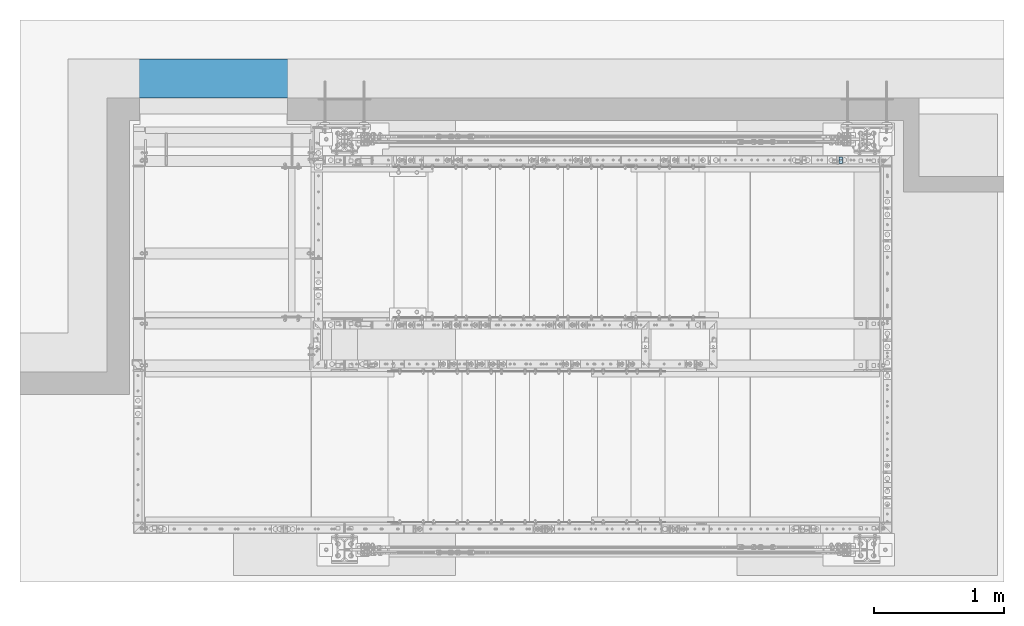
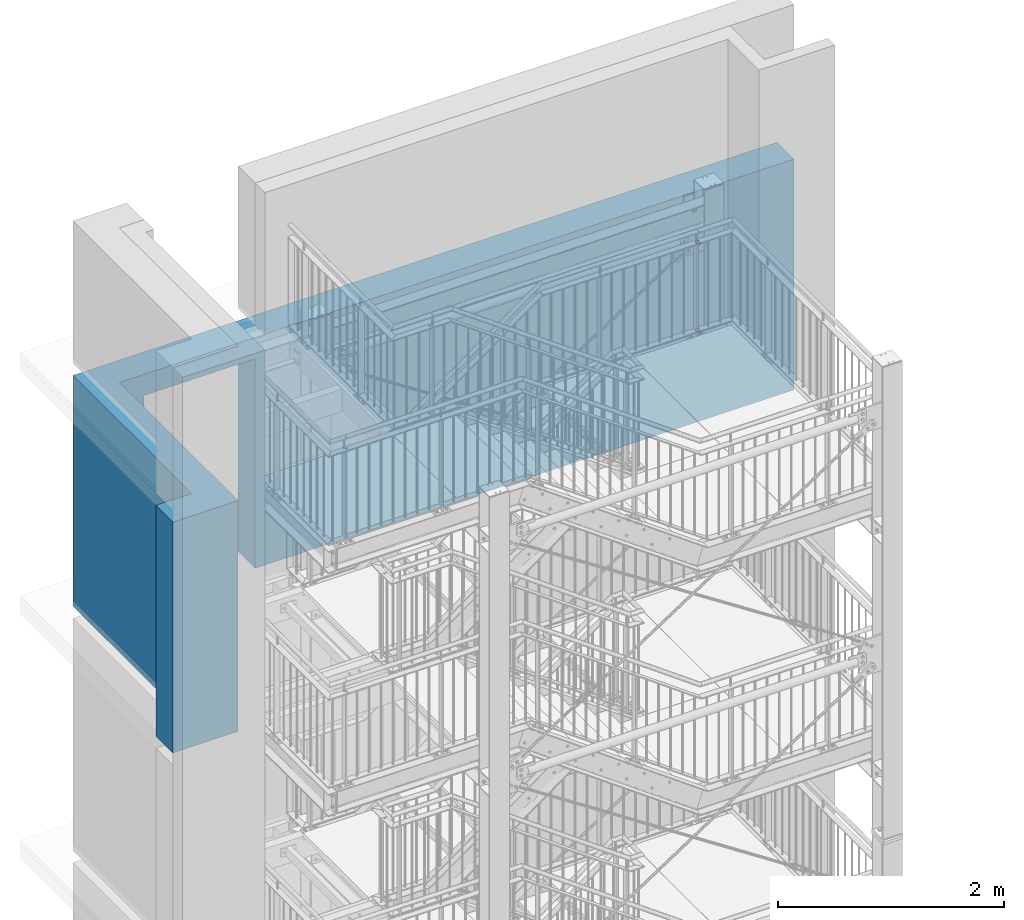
# One storey, part 235 of 831: 2 plates, 1 wall, 5 openings.
"""IFC2X3 building model written with IfcOpenShell, lengths in millimetres."""

from ifc_helpers import new_model, entity, si_unit, converted_unit, point, frame, frame_2d, origin, origin_with_axes, place, context, project, spatial, polyline, circle_curve, line_curve, trimmed, segment, composite_curve, outline, extrude, material, layer, layer_set, element, save


model = new_model("IFC2X3")

# Units and contexts
model_context = context("Model", 3, precision=1e-09, world=origin_with_axes())
ifc_project = project(units=[si_unit("LENGTHUNIT", "METRE", prefix="MILLI"), si_unit("AREAUNIT", "SQUARE_METRE"), si_unit("VOLUMEUNIT", "CUBIC_METRE"), converted_unit("PLANEANGLEUNIT", "DEGREE", entity("IfcPlaneAngleMeasure", 0.01745329), si_unit("PLANEANGLEUNIT", "RADIAN"), dimensions=[0, 0, 0, 0, 0, 0, 0])], contexts=[model_context])

# Site, building, storey
site_placement = place(None, origin_with_axes())
site = spatial("IfcSite", under=ifc_project, at=site_placement, Name="Site", CompositionType="ELEMENT")
building_placement = place(site_placement, origin_with_axes())
building = spatial("IfcBuilding", under=site, at=building_placement, Name="Struktur 1", CompositionType="ELEMENT")
storey_placement = place(building_placement, origin_with_axes())
storey = spatial("IfcBuildingStorey", under=building, at=storey_placement, Name="Default Storey", CompositionType="ELEMENT", Elevation=0.0)

# Plate, opening
ifc_material_1 = material(Name="S235JR")
ifc_layer_1 = layer(ifc_material_1, 6.0)
ifc_layer_set_1 = layer_set([ifc_layer_1], Name="S235JR")
plate_1_placement = place(None, frame((8664.213974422, 7356.736971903, 16578.0000003), z_axis=(0.0, 0.0, 1.0), x_axis=(1.0, 0.0, 0.0)))
plate_1 = element("IfcPlate", 1, at=plate_1_placement, inside=storey, material=ifc_layer_set_1, Name="-", ObjectType="-", context=model_context, shape_type="SweptSolid", body=[
    extrude(outline(polyline([(-15.0, -25.0), (15.0, -25.0), (15.0, 25.0), (-15.0, 25.0), (-15.0, -25.0)])), origin_with_axes(), (0.0, 0.0, 1.0), 6.0),
])
opening_1_placement = place(plate_1_placement, frame((-1e-09, 0.0, -0.5), z_axis=(0.0, 0.0, 1.0), x_axis=(1.0, 0.0, 0.0)))
element("IfcOpeningElement", 2, at=opening_1_placement, cuts=plate_1, ObjectType="Opening", context=model_context, shape_type="SweptSolid", body=[
    extrude(outline(composite_curve([segment(trimmed(line_curve((-2.5, -5.001), (1.0, 0.0), 5.0), [point((-2.5, -5.001))], [point((2.5, -5.001))], True, "CARTESIAN"), True, "CONTINUOUS"), segment(trimmed(circle_curve(frame_2d((2.5, 0.0), x_axis=(1.0, 0.0)), 5.001), [point((2.5, -5.001))], [point((2.5, 5.001))], True, "CARTESIAN"), True, "CONTINUOUS"), segment(trimmed(line_curve((2.5, 5.001), (-1.0, 0.0), 5.0), [point((2.5, 5.001))], [point((-2.5, 5.001))], True, "CARTESIAN"), True, "CONTINUOUS"), segment(trimmed(circle_curve(frame_2d((-2.5, 0.0), x_axis=(1.0, 0.0)), 5.001), [point((-2.5, 5.001))], [point((-2.5, -5.001))], True, "CARTESIAN"), True, "CONTINUOUS")], self_intersect=False)), origin(), (0.0, 0.0, 1.0), 7.0),
])

plate_2_placement = place(None, frame((8664.213974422, 7356.736971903, 17526.8000003), z_axis=(0.0, 0.0, 1.0), x_axis=(1.0, 0.0, 0.0)))
plate_2 = element("IfcPlate", 3, at=plate_2_placement, inside=storey, material=ifc_layer_set_1, Name="-", ObjectType="-", context=model_context, shape_type="SweptSolid", body=[
    extrude(outline(polyline([(-15.0, -25.0), (15.0, -25.0), (15.0, 25.0), (-15.0, 25.0), (-15.0, -25.0)])), origin_with_axes(), (0.0, 0.0, 1.0), 6.0),
])
opening_2_placement = place(plate_2_placement, frame((-1e-09, 0.0, -0.5), z_axis=(0.0, 0.0, 1.0), x_axis=(1.0, 0.0, 0.0)))
element("IfcOpeningElement", 4, at=opening_2_placement, cuts=plate_2, ObjectType="Opening", context=model_context, shape_type="SweptSolid", body=[
    extrude(outline(composite_curve([segment(trimmed(line_curve((-2.5, -5.001), (1.0, 0.0), 5.0), [point((-2.5, -5.001))], [point((2.5, -5.001))], True, "CARTESIAN"), True, "CONTINUOUS"), segment(trimmed(circle_curve(frame_2d((2.5, 0.0), x_axis=(1.0, 0.0)), 5.001), [point((2.5, -5.001))], [point((2.5, 5.001))], True, "CARTESIAN"), True, "CONTINUOUS"), segment(trimmed(line_curve((2.5, 5.001), (-1.0, 0.0), 5.0), [point((2.5, 5.001))], [point((-2.5, 5.001))], True, "CARTESIAN"), True, "CONTINUOUS"), segment(trimmed(circle_curve(frame_2d((-2.5, 0.0), x_axis=(1.0, 0.0)), 5.001), [point((-2.5, 5.001))], [point((-2.5, -5.001))], True, "CARTESIAN"), True, "CONTINUOUS")], self_intersect=False)), origin(), (0.0, 0.0, 1.0), 7.0),
])

# Wall, openings
ifc_material_2 = material(Name="C25/30")
ifc_layer_2 = layer(ifc_material_2, 2400.0)
ifc_layer_set_2 = layer_set([ifc_layer_2], Name="C25/30")
wall_placement = place(None, frame((6142.06017303, 8131.736971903, 16459.0), z_axis=(0.0, -1.0, 0.0), x_axis=(1.0, 0.0, 0.0)))
wall = element("IfcWall", 5, at=wall_placement, inside=storey, material=ifc_layer_set_2, Name="-", ObjectType="-", context=model_context, shape_type="SweptSolid", body=[
    extrude(outline(polyline([(-3774.655, -1245.0), (3774.655, -1245.0), (3774.655, 1245.0), (-3774.655, 1245.0), (-3774.655, -1245.0)])), origin_with_axes(), (0.0, 0.0, 1.0), 2400.0),
])
opening_3_placement = place(wall_placement, frame((0.0, -1245.1, 1200.0), z_axis=(0.0, 1.0, 0.0), x_axis=(1.0, 0.0, 0.0)))
element("IfcOpeningElement", 6, at=opening_3_placement, cuts=wall, ObjectType="Opening", context=model_context, shape_type="SweptSolid", body=[
    extrude(outline(polyline([(-4066.743359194, -900.001), (-3407.345770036, -900.001), (-3407.345770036, 1540.537918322), (-4066.743359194, 1540.537918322), (-4066.743359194, -900.001)])), origin(), (0.0, 0.0, 1.0), 2490.2),
])
opening_4_placement = place(wall_placement, frame((0.0, -1245.1, 1200.0), z_axis=(0.0, 1.0, 0.0), x_axis=(1.0, 0.0, 0.0)))
element("IfcOpeningElement", 7, at=opening_4_placement, cuts=wall, ObjectType="Opening", context=model_context, shape_type="SweptSolid", body=[
    extrude(outline(polyline([(-3107.347770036, -1639.47409106), (4518.929305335, -1639.47409106), (4518.929305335, 900.001), (-3107.347770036, 900.001), (-3107.347770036, -1639.47409106)])), origin(), (0.0, 0.0, 1.0), 2490.2),
])
opening_5_placement = place(wall_placement, frame((0.0, 0.0, -0.1), z_axis=(0.0, 0.0, 1.0), x_axis=(1.0, 0.0, 0.0)))
element("IfcOpeningElement", 8, at=opening_5_placement, cuts=wall, ObjectType="Opening", context=model_context, shape_type="SweptSolid", body=[
    extrude(outline(polyline([(-2857.348770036, -1269.927439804), (-1722.346770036, -1269.927439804), (-1722.346770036, 1015.001), (-2857.348770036, 1015.001), (-2857.348770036, -1269.927439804)])), origin(), (0.0, 0.0, 1.0), 2400.2),
])

save(model, "model.ifc")
